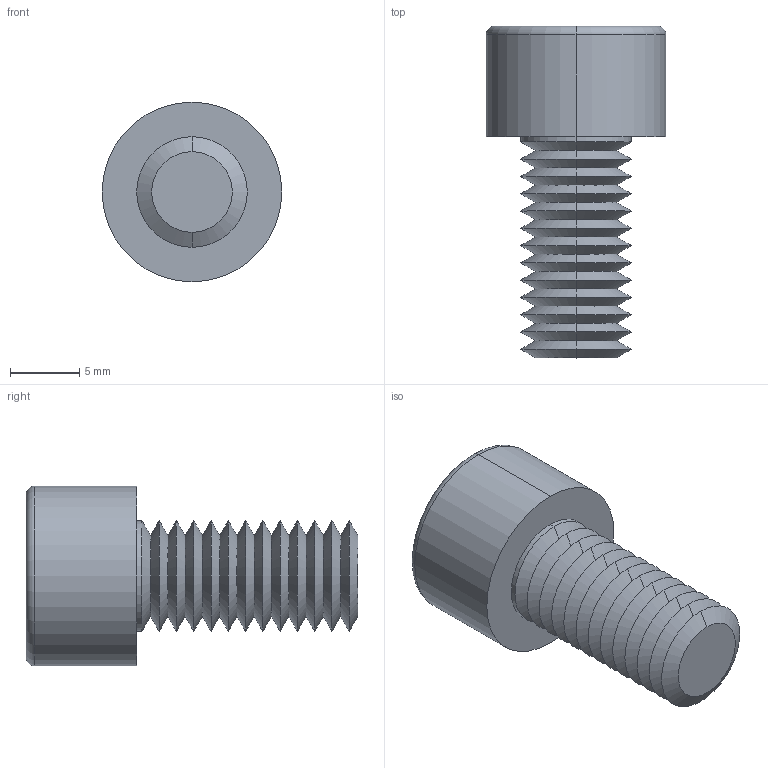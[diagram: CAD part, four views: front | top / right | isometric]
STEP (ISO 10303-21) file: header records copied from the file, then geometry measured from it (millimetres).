
FILE_DESCRIPTION (( 'STEP AP203' ), '1' );
FILE_NAME ('91N.080.0160.step', '2025-05-20T08:53:45', ( '' ), ( '' ), 'SwSTEP 2.0', 'SolidWorks 2019', '' );
FILE_SCHEMA (( 'CONFIG_CONTROL_DESIGN' ));
Length unit declared in the file: millimetre
Products named in the file (1): 91N.080.0160
Bounding box: 13 x 24 x 13 mm (x, y, z)
Volume: 1465.7 mm3; surface area: 1373.7 mm2
Topology: 1 solids, 1 shells, 80 faces, 159 edges, 81 vertices
Faces by surface type: cone 59, plane 15, cylinder 4, torus 2
Entity records: 2078 total; most frequent: DIRECTION 387, CARTESIAN_POINT 346, ORIENTED_EDGE 314, EDGE_CURVE 157, AXIS2_PLACEMENT_3D 156, EDGE_LOOP 82, VERTEX_POINT 81, ADVANCED_FACE 80
